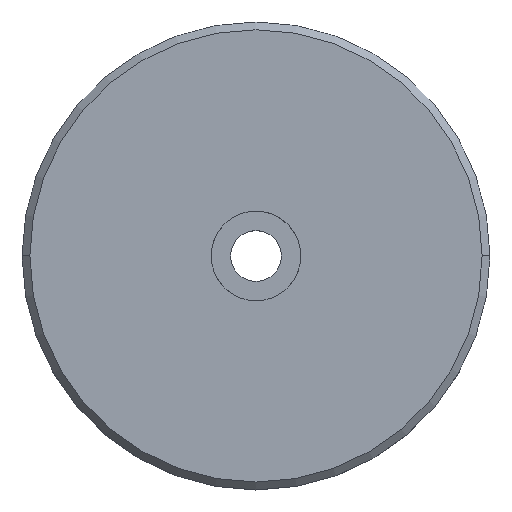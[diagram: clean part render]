
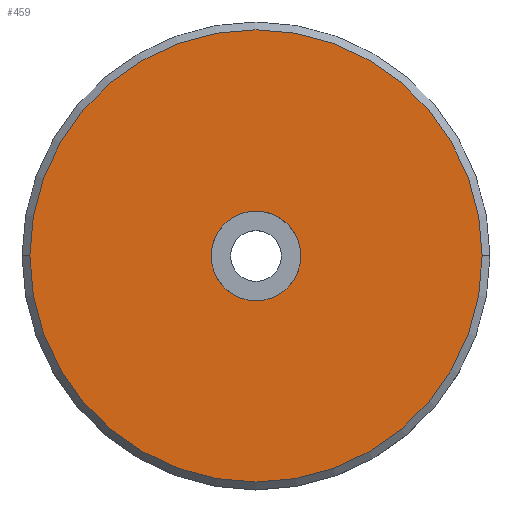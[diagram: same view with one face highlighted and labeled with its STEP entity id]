
A CAD part, top view. The second image highlights one B-rep face of the part: STEP entity #459.
In plain terms, the highlighted planar face has unit normal (0, 0, 1).
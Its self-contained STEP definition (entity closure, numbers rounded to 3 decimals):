
#359=CARTESIAN_POINT('Vertex',(58.,0.,25.)) ;
#362=CARTESIAN_POINT('Axis2P3D Location',(0.,0.,25.)) ;
#366=CARTESIAN_POINT('Vertex',(-58.,0.,25.)) ;
#386=CARTESIAN_POINT('Axis2P3D Location',(0.,0.,25.)) ;
#407=CARTESIAN_POINT('Vertex',(-11.5,0.,25.)) ;
#414=CARTESIAN_POINT('Vertex',(11.5,0.,25.)) ;
#417=CARTESIAN_POINT('Axis2P3D Location',(0.,0.,25.)) ;
#434=CARTESIAN_POINT('Axis2P3D Location',(0.,0.,25.)) ;
#446=CARTESIAN_POINT('Axis2P3D Location',(0.,0.,25.)) ;
#363=DIRECTION('Axis2P3D Direction',(0.,0.,-1.)) ;
#387=DIRECTION('Axis2P3D Direction',(0.,0.,-1.)) ;
#418=DIRECTION('Axis2P3D Direction',(0.,0.,1.)) ;
#435=DIRECTION('Axis2P3D Direction',(0.,0.,1.)) ;
#447=DIRECTION('Axis2P3D Direction',(0.,0.,1.)) ;
#448=DIRECTION('Axis2P3D XDirection',(1.,0.,0.)) ;
#364=AXIS2_PLACEMENT_3D('Circle Axis2P3D',#362,#363,$) ;
#388=AXIS2_PLACEMENT_3D('Circle Axis2P3D',#386,#387,$) ;
#419=AXIS2_PLACEMENT_3D('Circle Axis2P3D',#417,#418,$) ;
#436=AXIS2_PLACEMENT_3D('Circle Axis2P3D',#434,#435,$) ;
#449=AXIS2_PLACEMENT_3D('Plane Axis2P3D',#446,#447,#448) ;
#452=ORIENTED_EDGE('',*,*,#368,.T.) ;
#453=ORIENTED_EDGE('',*,*,#390,.T.) ;
#456=ORIENTED_EDGE('',*,*,#421,.F.) ;
#457=ORIENTED_EDGE('',*,*,#438,.F.) ;
#458=FACE_BOUND('',#455,.T.) ;
#459=ADVANCED_FACE('NONE',(#454,#458),#450,.T.) ;
#365=CIRCLE('generated circle',#364,58.) ;
#389=CIRCLE('generated circle',#388,58.) ;
#420=CIRCLE('generated circle',#419,11.5) ;
#437=CIRCLE('generated circle',#436,11.5) ;
#368=EDGE_CURVE('',#367,#360,#365,.F.) ;
#390=EDGE_CURVE('',#360,#367,#389,.F.) ;
#421=EDGE_CURVE('',#415,#408,#420,.T.) ;
#438=EDGE_CURVE('',#408,#415,#437,.T.) ;
#451=EDGE_LOOP('',(#452,#453)) ;
#455=EDGE_LOOP('',(#456,#457)) ;
#454=FACE_OUTER_BOUND('',#451,.T.) ;
#450=PLANE('Plane',#449) ;
#360=VERTEX_POINT('',#359) ;
#367=VERTEX_POINT('',#366) ;
#408=VERTEX_POINT('',#407) ;
#415=VERTEX_POINT('',#414) ;
